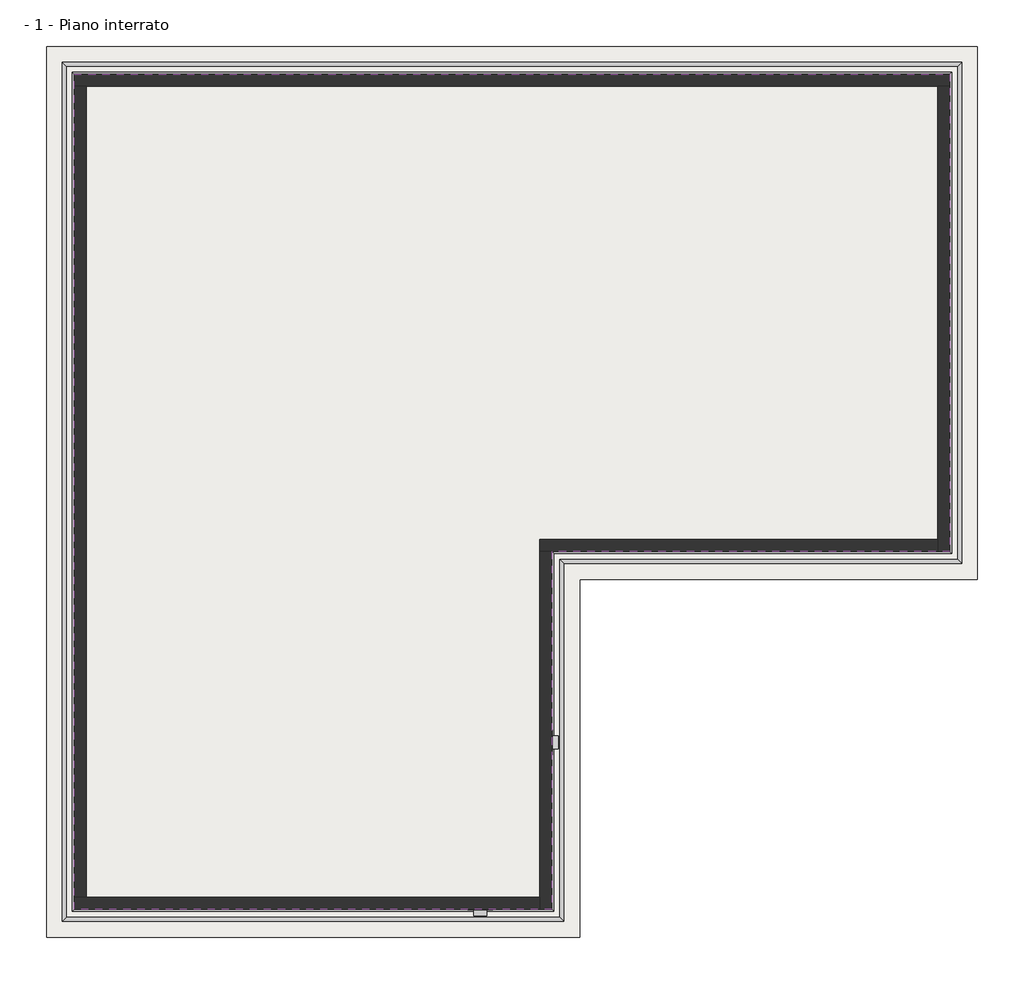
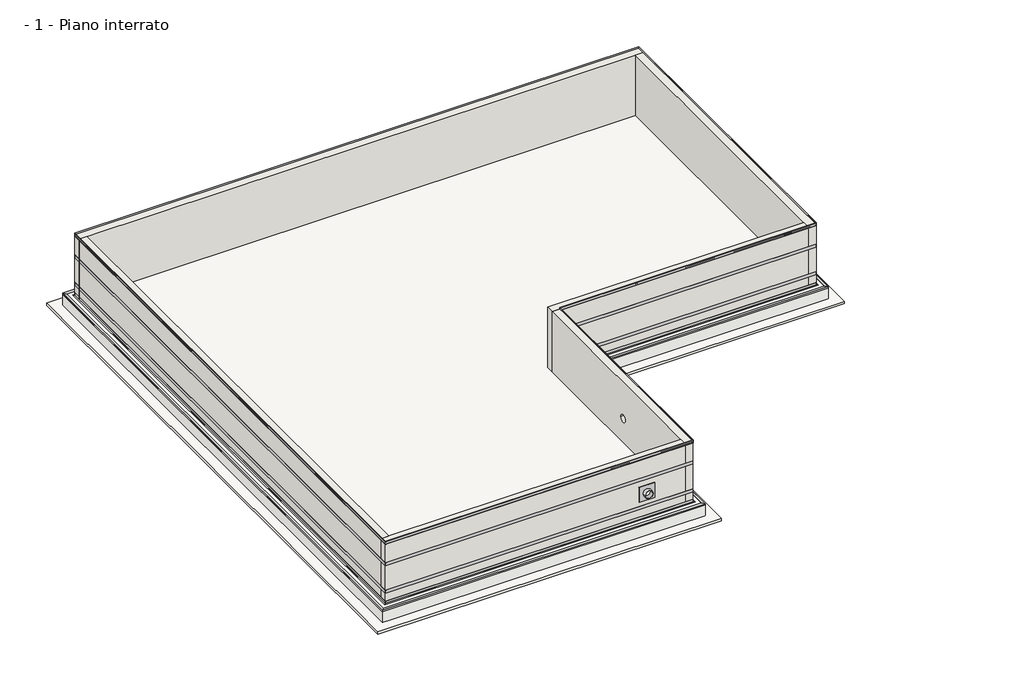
# One storey: 9 proxies, 6 walls, 2 slabs.
"""IFC4 building model written with IfcOpenShell, lengths in millimetres."""

from ifc_helpers import new_model, si_unit, frame, origin, place, context, project, spatial, polyline, circle_curve, outline, extrude, faceted_brep, transform, mapped, element, save
from ifc_brep_helpers import plane_surface, revolved_surface, advanced_brep
from components import generic_models_91e2fdae

model = new_model("IFC4")

# Units and contexts
model_context = context("Model", 3, world=origin())
ifc_project = project(units=[si_unit("LENGTHUNIT", "METRE", prefix="MILLI")], contexts=[model_context])

# Site, building, storey
site = spatial("IfcSite", under=ifc_project)
building = spatial("IfcBuilding", under=site)
storey = spatial("IfcBuildingStorey", under=building, Name="- 1 - Piano interrato", Elevation=-2500.0)

# Proxies
placement = place(None, origin())
element("IfcBuildingElementProxy", 1, Name="AMPHIBIA CORNER 90° VOLTECO", ObjectType="AMPHIBIA CORNER 90° VOLTECO", at=placement, inside=storey, context=model_context, shape_type="Brep", body=[
    faceted_brep([(14482.2184345, 11190.2450177, -2550.0), (14481.2184345, 11189.2450177, -2550.0), (-8118.7815655, 11189.2450177, -2550.0), (-8119.7815655, 11190.2450177, -2550.0), (14482.2184345, 11190.2450177, -2499.0), (-8119.7815655, 11190.2450177, -2499.0), (14381.2184345, 11089.2450177, -2499.0), (-8018.7815655, 11089.2450177, -2499.0), (14381.2184345, 11089.2450177, -2500.0), (-8018.7815655, 11089.2450177, -2500.0), (14481.2184345, 11189.2450177, -2500.0), (-8118.7815655, 11189.2450177, -2500.0), (-8118.7815655, -10410.7549823, -2550.0), (-8119.7815655, -10411.7549823, -2550.0), (-8119.7815655, -10411.7549823, -2499.0), (-8018.7815655, -10310.7549823, -2499.0), (-8018.7815655, -10310.7549823, -2500.0), (-8118.7815655, -10410.7549823, -2500.0), (4481.2184345, -10410.7549823, -2550.0), (4482.2184345, -10411.7549823, -2550.0), (4482.2184345, -10411.7549823, -2499.0), (4381.2184345, -10310.7549823, -2499.0), (4381.2184345, -10310.7549823, -2500.0), (4481.2184345, -10410.7549823, -2500.0), (4481.2184345, -1410.7549823, -2550.0), (4482.2184345, -1411.7549823, -2550.0), (4482.2184345, -1411.7549823, -2499.0), (4381.2184345, -1310.7549823, -2499.0), (4381.2184345, -1310.7549823, -2500.0), (4481.2184345, -1410.7549823, -2500.0), (14481.2184345, -1410.7549823, -2550.0), (14482.2184345, -1411.7549823, -2550.0), (14482.2184345, -1411.7549823, -2499.0), (14381.2184345, -1310.7549823, -2499.0), (14381.2184345, -1310.7549823, -2500.0), (14481.2184345, -1410.7549823, -2500.0)], [[[0, 1, 2, 3]], [[4, 0, 3, 5]], [[6, 4, 5, 7]], [[8, 6, 7, 9]], [[10, 8, 9, 11]], [[1, 10, 11, 2]], [[3, 2, 12, 13]], [[5, 3, 13, 14]], [[7, 5, 14, 15]], [[9, 7, 15, 16]], [[11, 9, 16, 17]], [[2, 11, 17, 12]], [[13, 12, 18, 19]], [[14, 13, 19, 20]], [[15, 14, 20, 21]], [[16, 15, 21, 22]], [[17, 16, 22, 23]], [[12, 17, 23, 18]], [[19, 18, 24, 25]], [[20, 19, 25, 26]], [[21, 20, 26, 27]], [[22, 21, 27, 28]], [[23, 22, 28, 29]], [[18, 23, 29, 24]], [[25, 24, 30, 31]], [[26, 25, 31, 32]], [[27, 26, 32, 33]], [[28, 27, 33, 34]], [[29, 28, 34, 35]], [[24, 29, 35, 30]], [[1, 0, 31, 30]], [[0, 4, 32, 31]], [[4, 6, 33, 32]], [[6, 8, 34, 33]], [[8, 10, 35, 34]], [[10, 1, 30, 35]]]),
])
element("IfcBuildingElementProxy", 2, Name="AKTI-VO 201 VOLTECO", ObjectType="AKTI-VO 201 VOLTECO", at=placement, inside=storey, context=model_context, shape_type="SweptSolid", body=[
    extrude(outline(polyline([(14205.1184345, 10913.1450177), (14206.1184345, 10914.1450177), (14206.1184345, -1135.6549823), (14205.1184345, -1134.6549823), (14205.1184345, 10913.1450177)])), frame((0.0, 0.0, -2500.0), z_axis=(0.0, 0.0, 1.0), x_axis=(1.0, 0.0, 0.0)), (0.0, 0.0, 1.0), 1.0),
    extrude(outline(polyline([(14205.1184345, -1134.6549823), (14206.1184345, -1135.6549823), (4206.1184345, -1135.6549823), (4205.1184345, -1134.6549823), (14205.1184345, -1134.6549823)])), frame((0.0, 0.0, -2500.0), z_axis=(0.0, 0.0, 1.0), x_axis=(1.0, 0.0, 0.0)), (0.0, 0.0, 1.0), 1.0),
    extrude(outline(polyline([(4205.1184345, -1134.6549823), (4206.1184345, -1135.6549823), (4206.1184345, -10135.6549823), (4205.1184345, -10134.6549823), (4205.1184345, -1134.6549823)])), frame((0.0, 0.0, -2500.0), z_axis=(0.0, 0.0, 1.0), x_axis=(1.0, 0.0, 0.0)), (0.0, 0.0, 1.0), 1.0),
    extrude(outline(polyline([(4205.1184345, -10134.6549823), (4206.1184345, -10135.6549823), (-7843.6815655, -10135.6549823), (-7842.6815655, -10134.6549823), (4205.1184345, -10134.6549823)])), frame((0.0, 0.0, -2500.0), z_axis=(0.0, 0.0, 1.0), x_axis=(1.0, 0.0, 0.0)), (0.0, 0.0, 1.0), 1.0),
    extrude(outline(polyline([(-7842.6815655, 10913.1450177), (-7843.6815655, 10914.1450177), (14206.1184345, 10914.1450177), (14205.1184345, 10913.1450177), (-7842.6815655, 10913.1450177)])), frame((0.0, 0.0, -2500.0), z_axis=(0.0, 0.0, 1.0), x_axis=(1.0, 0.0, 0.0)), (0.0, 0.0, 1.0), 1.0),
    extrude(outline(polyline([(-7842.6815655, -10134.6549823), (-7843.6815655, -10135.6549823), (-7843.6815655, 10914.1450177), (-7842.6815655, 10913.1450177), (-7842.6815655, -10134.6549823)])), frame((0.0, 0.0, -2500.0), z_axis=(0.0, 0.0, 1.0), x_axis=(1.0, 0.0, 0.0)), (0.0, 0.0, 1.0), 1.0),
])
element("IfcBuildingElementProxy", 3, Name="AMPHIBIA CORNER 270° VOLTECO", ObjectType="AMPHIBIA CORNER 270° VOLTECO", at=placement, inside=storey, context=model_context, shape_type="Brep", body=[
    faceted_brep([(14232.2184345, 10940.2450177, -2498.0), (14232.2184345, 10940.2450177, -2499.0), (14181.2184345, 10889.2450177, -2499.0), (14181.2184345, 10889.2450177, -2398.0), (14182.2184345, 10890.2450177, -2398.0), (14182.2184345, 10890.2450177, -2498.0), (14232.2184345, -1161.7549823, -2498.0), (14182.2184345, -1111.7549823, -2498.0), (14182.2184345, -1111.7549823, -2398.0), (14181.2184345, -1110.7549823, -2398.0), (14181.2184345, -1110.7549823, -2499.0), (14232.2184345, -1161.7549823, -2499.0)], [[[0, 1, 2, 3, 4, 5]], [[6, 7, 8, 9, 10, 11]], [[1, 0, 6, 11]], [[2, 1, 11, 10]], [[3, 2, 10, 9]], [[4, 3, 9, 8]], [[5, 4, 8, 7]], [[0, 5, 7, 6]]]),
    faceted_brep([(-7869.7815655, 10940.2450177, -2498.0), (-7869.7815655, 10940.2450177, -2499.0), (-7818.7815655, 10889.2450177, -2499.0), (-7818.7815655, 10889.2450177, -2398.0), (-7819.7815655, 10890.2450177, -2398.0), (-7819.7815655, 10890.2450177, -2498.0), (14232.2184345, 10940.2450177, -2498.0), (14182.2184345, 10890.2450177, -2498.0), (14182.2184345, 10890.2450177, -2398.0), (14181.2184345, 10889.2450177, -2398.0), (14181.2184345, 10889.2450177, -2499.0), (14232.2184345, 10940.2450177, -2499.0)], [[[0, 1, 2, 3, 4, 5]], [[6, 7, 8, 9, 10, 11]], [[1, 0, 6, 11]], [[2, 1, 11, 10]], [[3, 2, 10, 9]], [[4, 3, 9, 8]], [[5, 4, 8, 7]], [[0, 5, 7, 6]]]),
    faceted_brep([(-7869.7815655, -10161.7549823, -2498.0), (-7869.7815655, -10161.7549823, -2499.0), (-7818.7815655, -10110.7549823, -2499.0), (-7818.7815655, -10110.7549823, -2398.0), (-7819.7815655, -10111.7549823, -2398.0), (-7819.7815655, -10111.7549823, -2498.0), (-7869.7815655, 10940.2450177, -2498.0), (-7819.7815655, 10890.2450177, -2498.0), (-7819.7815655, 10890.2450177, -2398.0), (-7818.7815655, 10889.2450177, -2398.0), (-7818.7815655, 10889.2450177, -2499.0), (-7869.7815655, 10940.2450177, -2499.0)], [[[0, 1, 2, 3, 4, 5]], [[6, 7, 8, 9, 10, 11]], [[1, 0, 6, 11]], [[2, 1, 11, 10]], [[3, 2, 10, 9]], [[4, 3, 9, 8]], [[5, 4, 8, 7]], [[0, 5, 7, 6]]]),
    faceted_brep([(4232.2184345, -10161.7549823, -2498.0), (4232.2184345, -10161.7549823, -2499.0), (4181.2184345, -10110.7549823, -2499.0), (4181.2184345, -10110.7549823, -2398.0), (4182.2184345, -10111.7549823, -2398.0), (4182.2184345, -10111.7549823, -2498.0), (-7869.7815655, -10161.7549823, -2498.0), (-7819.7815655, -10111.7549823, -2498.0), (-7819.7815655, -10111.7549823, -2398.0), (-7818.7815655, -10110.7549823, -2398.0), (-7818.7815655, -10110.7549823, -2499.0), (-7869.7815655, -10161.7549823, -2499.0)], [[[0, 1, 2, 3, 4, 5]], [[6, 7, 8, 9, 10, 11]], [[1, 0, 6, 11]], [[2, 1, 11, 10]], [[3, 2, 10, 9]], [[4, 3, 9, 8]], [[5, 4, 8, 7]], [[0, 5, 7, 6]]]),
    faceted_brep([(4232.2184345, -1161.7549823, -2498.0), (4232.2184345, -1161.7549823, -2499.0), (4181.2184345, -1110.7549823, -2499.0), (4181.2184345, -1110.7549823, -2398.0), (4182.2184345, -1111.7549823, -2398.0), (4182.2184345, -1111.7549823, -2498.0), (4232.2184345, -10161.7549823, -2498.0), (4182.2184345, -10111.7549823, -2498.0), (4182.2184345, -10111.7549823, -2398.0), (4181.2184345, -10110.7549823, -2398.0), (4181.2184345, -10110.7549823, -2499.0), (4232.2184345, -10161.7549823, -2499.0)], [[[0, 1, 2, 3, 4, 5]], [[6, 7, 8, 9, 10, 11]], [[1, 0, 6, 11]], [[2, 1, 11, 10]], [[3, 2, 10, 9]], [[4, 3, 9, 8]], [[5, 4, 8, 7]], [[0, 5, 7, 6]]]),
    faceted_brep([(14232.2184345, -1161.7549823, -2498.0), (14232.2184345, -1161.7549823, -2499.0), (14181.2184345, -1110.7549823, -2499.0), (14181.2184345, -1110.7549823, -2398.0), (14182.2184345, -1111.7549823, -2398.0), (14182.2184345, -1111.7549823, -2498.0), (4232.2184345, -1161.7549823, -2498.0), (4182.2184345, -1111.7549823, -2498.0), (4182.2184345, -1111.7549823, -2398.0), (4181.2184345, -1110.7549823, -2398.0), (4181.2184345, -1110.7549823, -2499.0), (4232.2184345, -1161.7549823, -2499.0)], [[[0, 1, 2, 3, 4, 5]], [[6, 7, 8, 9, 10, 11]], [[1, 0, 6, 11]], [[2, 1, 11, 10]], [[3, 2, 10, 9]], [[4, 3, 9, 8]], [[5, 4, 8, 7]], [[0, 5, 7, 6]]]),
])
element("IfcBuildingElementProxy", 4, Name="Sistema Bi Flex H 10 lineare", ObjectType="Sistema Bi Flex H 10 lineare", at=placement, inside=storey, context=model_context, shape_type="Brep", body=[
    faceted_brep([(4181.2184345, -1110.7549823, 62.0), (4183.7184345, -1113.2549823, 59.5), (4183.7184345, -1113.2549823, 52.5), (4184.7184345, -1114.2549823, 51.0), (4184.7184345, -1114.2549823, -49.0), (4183.7184345, -1113.2549823, -50.5), (4183.7184345, -1113.2549823, -57.5), (4181.2184345, -1110.7549823, -60.0), (4182.2184345, -1111.7549823, 51.0), (4182.2184345, -1111.7549823, -49.0), (4183.2184345, -1112.7549823, -49.0), (4183.2184345, -1112.7549823, 51.0), (4181.2184345, -10110.7549823, 62.0), (4181.2184345, -10110.7549823, -60.0), (4183.7184345, -10113.2549823, -57.5), (4183.7184345, -10113.2549823, -50.5), (4184.7184345, -10114.2549823, -49.0), (4184.7184345, -10114.2549823, 51.0), (4183.7184345, -10113.2549823, 52.5), (4183.7184345, -10113.2549823, 59.5), (4182.2184345, -10111.7549823, 51.0), (4183.2184345, -10112.7549823, 51.0), (4183.2184345, -10112.7549823, -49.0), (4182.2184345, -10111.7549823, -49.0)], [[[0, 1, 2, 3, 4, 5, 6, 7], [8, 9, 10, 11]], [[12, 13, 14, 15, 16, 17, 18, 19], [20, 21, 22, 23]], [[1, 0, 12, 19]], [[2, 1, 19, 18]], [[3, 2, 18, 17]], [[4, 3, 17, 16]], [[5, 4, 16, 15]], [[6, 5, 15, 14]], [[7, 6, 14, 13]], [[0, 7, 13, 12]], [[9, 8, 20, 23]], [[10, 9, 23, 22]], [[11, 10, 22, 21]], [[8, 11, 21, 20]]]),
    faceted_brep([(14181.2184345, -1110.7549823, 62.0), (14183.7184345, -1113.2549823, 59.5), (14183.7184345, -1113.2549823, 52.5), (14184.7184345, -1114.2549823, 51.0), (14184.7184345, -1114.2549823, -49.0), (14183.7184345, -1113.2549823, -50.5), (14183.7184345, -1113.2549823, -57.5), (14181.2184345, -1110.7549823, -60.0), (14182.2184345, -1111.7549823, 51.0), (14182.2184345, -1111.7549823, -49.0), (14183.2184345, -1112.7549823, -49.0), (14183.2184345, -1112.7549823, 51.0), (4181.2184345, -1110.7549823, 62.0), (4181.2184345, -1110.7549823, -60.0), (4183.7184345, -1113.2549823, -57.5), (4183.7184345, -1113.2549823, -50.5), (4184.7184345, -1114.2549823, -49.0), (4184.7184345, -1114.2549823, 51.0), (4183.7184345, -1113.2549823, 52.5), (4183.7184345, -1113.2549823, 59.5), (4182.2184345, -1111.7549823, 51.0), (4183.2184345, -1112.7549823, 51.0), (4183.2184345, -1112.7549823, -49.0), (4182.2184345, -1111.7549823, -49.0)], [[[0, 1, 2, 3, 4, 5, 6, 7], [8, 9, 10, 11]], [[12, 13, 14, 15, 16, 17, 18, 19], [20, 21, 22, 23]], [[1, 0, 12, 19]], [[2, 1, 19, 18]], [[3, 2, 18, 17]], [[4, 3, 17, 16]], [[5, 4, 16, 15]], [[6, 5, 15, 14]], [[7, 6, 14, 13]], [[0, 7, 13, 12]], [[9, 8, 20, 23]], [[10, 9, 23, 22]], [[11, 10, 22, 21]], [[8, 11, 21, 20]]]),
    faceted_brep([(14181.2184345, 10889.2450177, 62.0), (14183.7184345, 10891.7450177, 59.5), (14183.7184345, 10891.7450177, 52.5), (14184.7184345, 10892.7450177, 51.0), (14184.7184345, 10892.7450177, -49.0), (14183.7184345, 10891.7450177, -50.5), (14183.7184345, 10891.7450177, -57.5), (14181.2184345, 10889.2450177, -60.0), (14182.2184345, 10890.2450177, 51.0), (14182.2184345, 10890.2450177, -49.0), (14183.2184345, 10891.2450177, -49.0), (14183.2184345, 10891.2450177, 51.0), (14181.2184345, -1110.7549823, 62.0), (14181.2184345, -1110.7549823, -60.0), (14183.7184345, -1113.2549823, -57.5), (14183.7184345, -1113.2549823, -50.5), (14184.7184345, -1114.2549823, -49.0), (14184.7184345, -1114.2549823, 51.0), (14183.7184345, -1113.2549823, 52.5), (14183.7184345, -1113.2549823, 59.5), (14182.2184345, -1111.7549823, 51.0), (14183.2184345, -1112.7549823, 51.0), (14183.2184345, -1112.7549823, -49.0), (14182.2184345, -1111.7549823, -49.0)], [[[0, 1, 2, 3, 4, 5, 6, 7], [8, 9, 10, 11]], [[12, 13, 14, 15, 16, 17, 18, 19], [20, 21, 22, 23]], [[1, 0, 12, 19]], [[2, 1, 19, 18]], [[3, 2, 18, 17]], [[4, 3, 17, 16]], [[5, 4, 16, 15]], [[6, 5, 15, 14]], [[7, 6, 14, 13]], [[0, 7, 13, 12]], [[9, 8, 20, 23]], [[10, 9, 23, 22]], [[11, 10, 22, 21]], [[8, 11, 21, 20]]]),
    faceted_brep([(-7818.7815655, 10889.2450177, 62.0), (-7821.2815655, 10891.7450177, 59.5), (-7821.2815655, 10891.7450177, 52.5), (-7822.2815655, 10892.7450177, 51.0), (-7822.2815655, 10892.7450177, -49.0), (-7821.2815655, 10891.7450177, -50.5), (-7821.2815655, 10891.7450177, -57.5), (-7818.7815655, 10889.2450177, -60.0), (-7819.7815655, 10890.2450177, 51.0), (-7819.7815655, 10890.2450177, -49.0), (-7820.7815655, 10891.2450177, -49.0), (-7820.7815655, 10891.2450177, 51.0), (14181.2184345, 10889.2450177, 62.0), (14181.2184345, 10889.2450177, -60.0), (14183.7184345, 10891.7450177, -57.5), (14183.7184345, 10891.7450177, -50.5), (14184.7184345, 10892.7450177, -49.0), (14184.7184345, 10892.7450177, 51.0), (14183.7184345, 10891.7450177, 52.5), (14183.7184345, 10891.7450177, 59.5), (14182.2184345, 10890.2450177, 51.0), (14183.2184345, 10891.2450177, 51.0), (14183.2184345, 10891.2450177, -49.0), (14182.2184345, 10890.2450177, -49.0)], [[[0, 1, 2, 3, 4, 5, 6, 7], [8, 9, 10, 11]], [[12, 13, 14, 15, 16, 17, 18, 19], [20, 21, 22, 23]], [[1, 0, 12, 19]], [[2, 1, 19, 18]], [[3, 2, 18, 17]], [[4, 3, 17, 16]], [[5, 4, 16, 15]], [[6, 5, 15, 14]], [[7, 6, 14, 13]], [[0, 7, 13, 12]], [[9, 8, 20, 23]], [[10, 9, 23, 22]], [[11, 10, 22, 21]], [[8, 11, 21, 20]]]),
    faceted_brep([(-7818.7815655, -10110.7549823, 62.0), (-7821.2815655, -10113.2549823, 59.5), (-7821.2815655, -10113.2549823, 52.5), (-7822.2815655, -10114.2549823, 51.0), (-7822.2815655, -10114.2549823, -49.0), (-7821.2815655, -10113.2549823, -50.5), (-7821.2815655, -10113.2549823, -57.5), (-7818.7815655, -10110.7549823, -60.0), (-7819.7815655, -10111.7549823, 51.0), (-7819.7815655, -10111.7549823, -49.0), (-7820.7815655, -10112.7549823, -49.0), (-7820.7815655, -10112.7549823, 51.0), (-7818.7815655, 10889.2450177, 62.0), (-7818.7815655, 10889.2450177, -60.0), (-7821.2815655, 10891.7450177, -57.5), (-7821.2815655, 10891.7450177, -50.5), (-7822.2815655, 10892.7450177, -49.0), (-7822.2815655, 10892.7450177, 51.0), (-7821.2815655, 10891.7450177, 52.5), (-7821.2815655, 10891.7450177, 59.5), (-7819.7815655, 10890.2450177, 51.0), (-7820.7815655, 10891.2450177, 51.0), (-7820.7815655, 10891.2450177, -49.0), (-7819.7815655, 10890.2450177, -49.0)], [[[0, 1, 2, 3, 4, 5, 6, 7], [8, 9, 10, 11]], [[12, 13, 14, 15, 16, 17, 18, 19], [20, 21, 22, 23]], [[1, 0, 12, 19]], [[2, 1, 19, 18]], [[3, 2, 18, 17]], [[4, 3, 17, 16]], [[5, 4, 16, 15]], [[6, 5, 15, 14]], [[7, 6, 14, 13]], [[0, 7, 13, 12]], [[9, 8, 20, 23]], [[10, 9, 23, 22]], [[11, 10, 22, 21]], [[8, 11, 21, 20]]]),
    faceted_brep([(4181.2184345, -10110.7549823, 62.0), (4183.7184345, -10113.2549823, 59.5), (4183.7184345, -10113.2549823, 52.5), (4184.7184345, -10114.2549823, 51.0), (4184.7184345, -10114.2549823, -49.0), (4183.7184345, -10113.2549823, -50.5), (4183.7184345, -10113.2549823, -57.5), (4181.2184345, -10110.7549823, -60.0), (4182.2184345, -10111.7549823, 51.0), (4182.2184345, -10111.7549823, -49.0), (4183.2184345, -10112.7549823, -49.0), (4183.2184345, -10112.7549823, 51.0), (-7818.7815655, -10110.7549823, 62.0), (-7818.7815655, -10110.7549823, -60.0), (-7821.2815655, -10113.2549823, -57.5), (-7821.2815655, -10113.2549823, -50.5), (-7822.2815655, -10114.2549823, -49.0), (-7822.2815655, -10114.2549823, 51.0), (-7821.2815655, -10113.2549823, 52.5), (-7821.2815655, -10113.2549823, 59.5), (-7819.7815655, -10111.7549823, 51.0), (-7820.7815655, -10112.7549823, 51.0), (-7820.7815655, -10112.7549823, -49.0), (-7819.7815655, -10111.7549823, -49.0)], [[[0, 1, 2, 3, 4, 5, 6, 7], [8, 9, 10, 11]], [[12, 13, 14, 15, 16, 17, 18, 19], [20, 21, 22, 23]], [[1, 0, 12, 19]], [[2, 1, 19, 18]], [[3, 2, 18, 17]], [[4, 3, 17, 16]], [[5, 4, 16, 15]], [[6, 5, 15, 14]], [[7, 6, 14, 13]], [[0, 7, 13, 12]], [[9, 8, 20, 23]], [[10, 9, 23, 22]], [[11, 10, 22, 21]], [[8, 11, 21, 20]]]),
])
element("IfcBuildingElementProxy", 5, Name="WT CONSTRUCTION Volteco", ObjectType="WT CONSTRUCTION Volteco", at=placement, inside=storey, context=model_context, shape_type="SweptSolid", body=[
    extrude(outline(polyline([(4018.7184345, -948.2549823), (4043.7184345, -973.2549823), (4043.7184345, -9973.2549823), (4018.7184345, -9948.2549823), (4018.7184345, -948.2549823)])), frame((0.0, 0.0, -2500.0), z_axis=(0.0, 0.0, 1.0), x_axis=(1.0, 0.0, 0.0)), (0.0, 0.0, 1.0), 15.0),
    extrude(outline(polyline([(4018.7184345, -9948.2549823), (4043.7184345, -9973.2549823), (-7681.2815655, -9973.2549823), (-7656.2815655, -9948.2549823), (4018.7184345, -9948.2549823)])), frame((0.0, 0.0, -2500.0), z_axis=(0.0, 0.0, 1.0), x_axis=(1.0, 0.0, 0.0)), (0.0, 0.0, 1.0), 15.0),
    extrude(outline(polyline([(-7656.2815655, -9948.2549823), (-7681.2815655, -9973.2549823), (-7681.2815655, 10751.7450177), (-7656.2815655, 10726.7450177), (-7656.2815655, -9948.2549823)])), frame((0.0, 0.0, -2500.0), z_axis=(0.0, 0.0, 1.0), x_axis=(1.0, 0.0, 0.0)), (0.0, 0.0, 1.0), 15.0),
    extrude(outline(polyline([(-7656.2815655, 10726.7450177), (-7681.2815655, 10751.7450177), (14043.7184345, 10751.7450177), (14018.7184345, 10726.7450177), (-7656.2815655, 10726.7450177)])), frame((0.0, 0.0, -2500.0), z_axis=(0.0, 0.0, 1.0), x_axis=(1.0, 0.0, 0.0)), (0.0, 0.0, 1.0), 15.0),
    extrude(outline(polyline([(14018.7184345, 10726.7450177), (14043.7184345, 10751.7450177), (14043.7184345, -973.2549823), (14018.7184345, -948.2549823), (14018.7184345, 10726.7450177)])), frame((0.0, 0.0, -2500.0), z_axis=(0.0, 0.0, 1.0), x_axis=(1.0, 0.0, 0.0)), (0.0, 0.0, 1.0), 15.0),
    extrude(outline(polyline([(14018.7184345, -948.2549823), (14043.7184345, -973.2549823), (4043.7184345, -973.2549823), (4018.7184345, -948.2549823), (14018.7184345, -948.2549823)])), frame((0.0, 0.0, -2500.0), z_axis=(0.0, 0.0, 1.0), x_axis=(1.0, 0.0, 0.0)), (0.0, 0.0, 1.0), 15.0),
])
element("IfcBuildingElementProxy", 6, Name="AMPHIBIA 3000 STRIP Volteco", ObjectType="AMPHIBIA 3000 STRIP Volteco", at=placement, inside=storey, context=model_context, shape_type="SweptSolid", body=[
    extrude(outline(polyline([(4181.2184345, -10110.7549823), (4182.2184345, -10111.7549823), (-7819.7815655, -10111.7549823), (-7818.7815655, -10110.7549823), (4181.2184345, -10110.7549823)])), frame((0.0, 0.0, -940.0), z_axis=(0.0, 0.0, 1.0), x_axis=(1.0, 0.0, 0.0)), (0.0, 0.0, 1.0), 120.0),
    extrude(outline(polyline([(4181.2184345, -1110.7549823), (4182.2184345, -1111.7549823), (4182.2184345, -10111.7549823), (4181.2184345, -10110.7549823), (4181.2184345, -1110.7549823)])), frame((0.0, 0.0, -940.0), z_axis=(0.0, 0.0, 1.0), x_axis=(1.0, 0.0, 0.0)), (0.0, 0.0, 1.0), 120.0),
    extrude(outline(polyline([(14181.2184345, -1110.7549823), (14182.2184345, -1111.7549823), (4182.2184345, -1111.7549823), (4181.2184345, -1110.7549823), (14181.2184345, -1110.7549823)])), frame((0.0, 0.0, -940.0), z_axis=(0.0, 0.0, 1.0), x_axis=(1.0, 0.0, 0.0)), (0.0, 0.0, 1.0), 120.0),
    extrude(outline(polyline([(14181.2184345, 10889.2450177), (14182.2184345, 10890.2450177), (14182.2184345, -1111.7549823), (14181.2184345, -1110.7549823), (14181.2184345, 10889.2450177)])), frame((0.0, 0.0, -940.0), z_axis=(0.0, 0.0, 1.0), x_axis=(1.0, 0.0, 0.0)), (0.0, 0.0, 1.0), 120.0),
    extrude(outline(polyline([(-7818.7815655, 10889.2450177), (-7819.7815655, 10890.2450177), (14182.2184345, 10890.2450177), (14181.2184345, 10889.2450177), (-7818.7815655, 10889.2450177)])), frame((0.0, 0.0, -940.0), z_axis=(0.0, 0.0, 1.0), x_axis=(1.0, 0.0, 0.0)), (0.0, 0.0, 1.0), 120.0),
    extrude(outline(polyline([(-7818.7815655, -10110.7549823), (-7819.7815655, -10111.7549823), (-7819.7815655, 10890.2450177), (-7818.7815655, 10889.2450177), (-7818.7815655, -10110.7549823)])), frame((0.0, 0.0, -940.0), z_axis=(0.0, 0.0, 1.0), x_axis=(1.0, 0.0, 0.0)), (0.0, 0.0, 1.0), 120.0),
])
element("IfcBuildingElementProxy", 7, Name="AMPHIBIA 3000 STRIP Volteco", ObjectType="AMPHIBIA 3000 STRIP Volteco", at=placement, inside=storey, context=model_context, shape_type="SweptSolid", body=[
    extrude(outline(polyline([(4181.2184345, -10110.7549823), (4182.2184345, -10111.7549823), (-7819.7815655, -10111.7549823), (-7818.7815655, -10110.7549823), (4181.2184345, -10110.7549823)])), frame((0.0, 0.0, -2080.0), z_axis=(0.0, 0.0, 1.0), x_axis=(1.0, 0.0, 0.0)), (0.0, 0.0, 1.0), 120.0),
    extrude(outline(polyline([(4181.2184345, -1110.7549823), (4182.2184345, -1111.7549823), (4182.2184345, -10111.7549823), (4181.2184345, -10110.7549823), (4181.2184345, -1110.7549823)])), frame((0.0, 0.0, -2080.0), z_axis=(0.0, 0.0, 1.0), x_axis=(1.0, 0.0, 0.0)), (0.0, 0.0, 1.0), 120.0),
    extrude(outline(polyline([(14181.2184345, -1110.7549823), (14182.2184345, -1111.7549823), (4182.2184345, -1111.7549823), (4181.2184345, -1110.7549823), (14181.2184345, -1110.7549823)])), frame((0.0, 0.0, -2080.0), z_axis=(0.0, 0.0, 1.0), x_axis=(1.0, 0.0, 0.0)), (0.0, 0.0, 1.0), 120.0),
    extrude(outline(polyline([(14181.2184345, 10889.2450177), (14182.2184345, 10890.2450177), (14182.2184345, -1111.7549823), (14181.2184345, -1110.7549823), (14181.2184345, 10889.2450177)])), frame((0.0, 0.0, -2080.0), z_axis=(0.0, 0.0, 1.0), x_axis=(1.0, 0.0, 0.0)), (0.0, 0.0, 1.0), 120.0),
    extrude(outline(polyline([(-7818.7815655, 10889.2450177), (-7819.7815655, 10890.2450177), (14182.2184345, 10890.2450177), (14181.2184345, 10889.2450177), (-7818.7815655, 10889.2450177)])), frame((0.0, 0.0, -2080.0), z_axis=(0.0, 0.0, 1.0), x_axis=(1.0, 0.0, 0.0)), (0.0, 0.0, 1.0), 120.0),
    extrude(outline(polyline([(-7818.7815655, -10110.7549823), (-7819.7815655, -10111.7549823), (-7819.7815655, 10890.2450177), (-7818.7815655, 10889.2450177), (-7818.7815655, -10110.7549823)])), frame((0.0, 0.0, -2080.0), z_axis=(0.0, 0.0, 1.0), x_axis=(1.0, 0.0, 0.0)), (0.0, 0.0, 1.0), 120.0),
])
generic_models_shape = generic_models_91e2fdae(model_context)
element("IfcBuildingElementProxy", 8, Name="ITA-VOLTECO Amphibia Tubo : ITA-VOLTECO Amphibia Tubo", ObjectType="ITA-VOLTECO Amphibia Tubo : ITA-VOLTECO Amphibia Tubo", at=placement, inside=storey, context=model_context, shape_type="MappedRepresentation", body=[
    mapped(generic_models_shape, transform((4181.2184345, -5910.7549823, -1500.3520841), x_axis=(0.0, 1.0, 0.0), y_axis=(0.0, 0.0, 1.0), z_axis=(1.0, 0.0, 0.0))),
])
element("IfcBuildingElementProxy", 9, Name="ITA-VOLTECO Amphibia Tubo : ITA-VOLTECO Amphibia Tubo", ObjectType="ITA-VOLTECO Amphibia Tubo : ITA-VOLTECO Amphibia Tubo", at=placement, inside=storey, context=model_context, shape_type="MappedRepresentation", body=[
    mapped(generic_models_shape, transform((2381.2184345, -10110.7549823, -1471.2981482), x_axis=(1.0, 0.0, 0.0), y_axis=(0.0, 0.0, 1.0), z_axis=(0.0, -1.0, 0.0))),
])

# Slabs
element("IfcSlab", 10, ObjectType="Magrone - 10 cm", at=placement, inside=storey, context=model_context, shape_type="SweptSolid", body=[
    extrude(outline(polyline([(14881.2184345, 11589.2450177), (14881.2184345, -1810.7549823), (4881.2184345, -1810.7549823), (4881.2184345, -10810.7549823), (-8518.7815655, -10810.7549823), (-8518.7815655, 11589.2450177), (14881.2184345, 11589.2450177)])), frame((0.0, 0.0, -3100.0), z_axis=(0.0, 0.0, 1.0), x_axis=(1.0, 0.0, 0.0)), (0.0, 0.0, 1.0), 100.0),
])
element("IfcSlab", 11, ObjectType="Platea - 50 cm", at=placement, inside=storey, context=model_context, shape_type="Brep", body=[
    faceted_brep([(14481.2184345, 11189.2450177, -3000.0), (14481.2184345, -1410.7549823, -3000.0), (4481.2184345, -1410.7549823, -3000.0), (4481.2184345, -10410.7549823, -3000.0), (-8118.7815655, -10410.7549823, -3000.0), (-8118.7815655, 11189.2450177, -3000.0), (14481.2184345, 11189.2450177, -2500.0), (-8118.7815655, 11189.2450177, -2500.0), (-8118.7815655, -10410.7549823, -2500.0), (4481.2184345, -10410.7549823, -2500.0), (4481.2184345, -1410.7549823, -2500.0), (14481.2184345, -1410.7549823, -2500.0), (14481.2184345, 11189.2450177, -2550.0), (14481.2184345, -1410.7549823, -2550.0), (4481.2184345, -1410.7549823, -2550.0), (4481.2184345, -10410.7549823, -2550.0), (-8118.7815655, -10410.7549823, -2550.0), (-8118.7815655, 11189.2450177, -2550.0)], [[[0, 1, 2, 3, 4, 5]], [[6, 7, 8, 9, 10, 11]], [[1, 0, 12, 6, 11, 13]], [[2, 1, 13, 11, 10, 14]], [[3, 2, 14, 10, 9, 15]], [[4, 3, 15, 9, 8, 16]], [[5, 4, 16, 8, 7, 17]], [[0, 5, 17, 7, 6, 12]]]),
])

# Walls
element("IfcWall", 12, ObjectType="Fondazione - 30 cm", at=placement, inside=storey, context=model_context, shape_type="Brep", body=[
    faceted_brep([(14181.2184345, 10589.2450177, 0.0), (13881.2184345, 10589.2450177, 0.0), (-7518.7815655, 10589.2450177, 0.0), (-7818.7815655, 10589.2450177, 0.0), (-7818.7815655, 10589.2450177, -60.0), (-7818.7815655, 10589.2450177, -820.0), (-7818.7815655, 10589.2450177, -940.0), (-7818.7815655, 10589.2450177, -1960.0), (-7818.7815655, 10589.2450177, -2080.0), (-7818.7815655, 10589.2450177, -2398.0), (-7818.7815655, 10589.2450177, -2499.0), (-7818.7815655, 10589.2450177, -2500.0), (-7681.2815655, 10589.2450177, -2500.0), (-7681.2815655, 10589.2450177, -2485.0), (-7656.2815655, 10589.2450177, -2485.0), (-7656.2815655, 10589.2450177, -2500.0), (-7518.7815655, 10589.2450177, -2500.0), (13881.2184345, 10589.2450177, -2500.0), (14018.7184345, 10589.2450177, -2500.0), (14018.7184345, 10589.2450177, -2485.0), (14043.7184345, 10589.2450177, -2485.0), (14043.7184345, 10589.2450177, -2500.0), (14181.2184345, 10589.2450177, -2500.0), (14181.2184345, 10589.2450177, -2499.0), (14181.2184345, 10589.2450177, -2398.0), (14181.2184345, 10589.2450177, -2080.0), (14181.2184345, 10589.2450177, -1960.0), (14181.2184345, 10589.2450177, -940.0), (14181.2184345, 10589.2450177, -820.0), (14181.2184345, 10589.2450177, -60.0), (-7818.7815655, 10889.2450177, 0.0), (14181.2184345, 10889.2450177, 0.0), (14181.2184345, 10889.2450177, -60.0), (14181.2184345, 10889.2450177, -820.0), (14181.2184345, 10889.2450177, -940.0), (14181.2184345, 10889.2450177, -1960.0), (14181.2184345, 10889.2450177, -2080.0), (14181.2184345, 10889.2450177, -2398.0), (14181.2184345, 10889.2450177, -2499.0), (14181.2184345, 10889.2450177, -2500.0), (-7818.7815655, 10889.2450177, -2500.0), (-7818.7815655, 10889.2450177, -2499.0), (-7818.7815655, 10889.2450177, -2398.0), (-7818.7815655, 10889.2450177, -2080.0), (-7818.7815655, 10889.2450177, -1960.0), (-7818.7815655, 10889.2450177, -940.0), (-7818.7815655, 10889.2450177, -820.0), (-7818.7815655, 10889.2450177, -60.0), (14043.7184345, 10751.7450177, -2500.0), (-7681.2815655, 10751.7450177, -2500.0), (-7656.2815655, 10726.7450177, -2500.0), (14018.7184345, 10726.7450177, -2500.0), (-7656.2815655, 10726.7450177, -2485.0), (14018.7184345, 10726.7450177, -2485.0), (-7681.2815655, 10751.7450177, -2485.0), (14043.7184345, 10751.7450177, -2485.0)], [[[0, 1, 2, 3, 4, 5, 6, 7, 8, 9, 10, 11, 12, 13, 14, 15, 16, 17, 18, 19, 20, 21, 22, 23, 24, 25, 26, 27, 28, 29]], [[30, 31, 32, 33, 34, 35, 36, 37, 38, 39, 40, 41, 42, 43, 44, 45, 46, 47]], [[3, 2, 1, 0, 31, 30]], [[31, 0, 29, 28, 27, 26, 25, 24, 23, 22, 39, 38, 37, 36, 35, 34, 33, 32]], [[3, 30, 47, 46, 45, 44, 43, 42, 41, 40, 11, 10, 9, 8, 7, 6, 5, 4]], [[11, 40, 39, 22, 21, 48, 49, 12]], [[18, 17, 16, 15, 50, 51]], [[52, 50, 15, 14]], [[53, 52, 14, 13, 54, 55, 20, 19]], [[50, 52, 53, 51]], [[51, 53, 19, 18]], [[49, 54, 13, 12]], [[55, 54, 49, 48]], [[55, 48, 21, 20]]]),
])
element("IfcWall", 13, ObjectType="Fondazione - 30 cm", at=placement, inside=storey, context=model_context, shape_type="Brep", body=[
    faceted_brep([(13881.2184345, -1110.7549823, 0.0), (13881.2184345, -810.7549823, 0.0), (13881.2184345, 10589.2450177, 0.0), (13881.2184345, 10589.2450177, -2500.0), (13881.2184345, -810.7549823, -2500.0), (13881.2184345, -948.2549823, -2500.0), (13881.2184345, -948.2549823, -2485.0), (13881.2184345, -973.2549823, -2485.0), (13881.2184345, -973.2549823, -2500.0), (13881.2184345, -1110.7549823, -2500.0), (13881.2184345, -1110.7549823, -2499.0), (13881.2184345, -1110.7549823, -2398.0), (13881.2184345, -1110.7549823, -2080.0), (13881.2184345, -1110.7549823, -1960.0), (13881.2184345, -1110.7549823, -940.0), (13881.2184345, -1110.7549823, -820.0), (13881.2184345, -1110.7549823, -60.0), (14181.2184345, 10589.2450177, 0.0), (14181.2184345, -1110.7549823, 0.0), (14181.2184345, -1110.7549823, -60.0), (14181.2184345, -1110.7549823, -820.0), (14181.2184345, -1110.7549823, -940.0), (14181.2184345, -1110.7549823, -1960.0), (14181.2184345, -1110.7549823, -2080.0), (14181.2184345, -1110.7549823, -2398.0), (14181.2184345, -1110.7549823, -2499.0), (14181.2184345, -1110.7549823, -2500.0), (14181.2184345, 10589.2450177, -2500.0), (14181.2184345, 10589.2450177, -2499.0), (14181.2184345, 10589.2450177, -2398.0), (14181.2184345, 10589.2450177, -2080.0), (14181.2184345, 10589.2450177, -1960.0), (14181.2184345, 10589.2450177, -940.0), (14181.2184345, 10589.2450177, -820.0), (14181.2184345, 10589.2450177, -60.0), (14043.7184345, 10589.2450177, -2500.0), (14043.7184345, 10589.2450177, -2485.0), (14018.7184345, 10589.2450177, -2485.0), (14018.7184345, 10589.2450177, -2500.0), (14043.7184345, -973.2549823, -2500.0), (14018.7184345, -948.2549823, -2500.0), (14018.7184345, -948.2549823, -2485.0), (14043.7184345, -973.2549823, -2485.0)], [[[0, 1, 2, 3, 4, 5, 6, 7, 8, 9, 10, 11, 12, 13, 14, 15, 16]], [[17, 18, 19, 20, 21, 22, 23, 24, 25, 26, 27, 28, 29, 30, 31, 32, 33, 34]], [[2, 1, 0, 18, 17]], [[3, 2, 17, 34, 33, 32, 31, 30, 29, 28, 27, 35, 36, 37, 38]], [[18, 0, 16, 15, 14, 13, 12, 11, 10, 9, 26, 25, 24, 23, 22, 21, 20, 19]], [[27, 26, 9, 8, 39, 35]], [[5, 4, 3, 38, 40]], [[6, 41, 37, 36, 42, 7]], [[41, 40, 38, 37]], [[40, 41, 6, 5]], [[39, 42, 36, 35]], [[42, 39, 8, 7]]]),
])
element("IfcWall", 14, ObjectType="Fondazione - 30 cm", at=placement, inside=storey, context=model_context, shape_type="Brep", body=[
    faceted_brep([(3881.2184345, -810.7549823, 0.0), (13881.2184345, -810.7549823, 0.0), (13881.2184345, -810.7549823, -2500.0), (3881.2184345, -810.7549823, -2500.0), (3881.2184345, -1110.7549823, 0.0), (3881.2184345, -1110.7549823, -2500.0), (4018.7184345, -1110.7549823, -2500.0), (4018.7184345, -1110.7549823, -2485.0), (4043.7184345, -1110.7549823, -2485.0), (4043.7184345, -1110.7549823, -2500.0), (4181.2184345, -1110.7549823, -2500.0), (13881.2184345, -1110.7549823, -2500.0), (13881.2184345, -1110.7549823, -2499.0), (13881.2184345, -1110.7549823, -2398.0), (13881.2184345, -1110.7549823, -2080.0), (13881.2184345, -1110.7549823, -1960.0), (13881.2184345, -1110.7549823, -940.0), (13881.2184345, -1110.7549823, -820.0), (13881.2184345, -1110.7549823, -60.0), (13881.2184345, -1110.7549823, 0.0), (4181.2184345, -1110.7549823, 0.0), (13881.2184345, -973.2549823, -2500.0), (13881.2184345, -973.2549823, -2485.0), (13881.2184345, -948.2549823, -2485.0), (13881.2184345, -948.2549823, -2500.0), (4018.7184345, -948.2549823, -2500.0), (4043.7184345, -973.2549823, -2500.0), (4018.7184345, -948.2549823, -2485.0), (4043.7184345, -973.2549823, -2485.0)], [[[0, 1, 2, 3]], [[4, 5, 6, 7, 8, 9, 10, 11, 12, 13, 14, 15, 16, 17, 18, 19, 20]], [[1, 0, 4, 20, 19]], [[2, 1, 19, 18, 17, 16, 15, 14, 13, 12, 11, 21, 22, 23, 24]], [[0, 3, 5, 4]], [[3, 2, 24, 25, 6, 5]], [[11, 10, 9, 26, 21]], [[7, 27, 23, 22, 28, 8]], [[27, 25, 24, 23]], [[25, 27, 7, 6]], [[26, 28, 22, 21]], [[28, 26, 9, 8]]]),
])
element("IfcWall", 15, ObjectType="Fondazione - 30 cm", at=placement, inside=storey, context=model_context, shape_type="AdvancedBrep", body=[
    advanced_brep(
    [(3881.2184345, -10110.7549823, 0.0), (3881.2184345, -9810.7549823, 0.0), (3881.2184345, -1110.7549823, 0.0), (3881.2184345, -1110.7549823, -2500.0), (3881.2184345, -9810.7549823, -2500.0), (3881.2184345, -9948.2549823, -2500.0), (3881.2184345, -9948.2549823, -2485.0), (3881.2184345, -9973.2549823, -2485.0), (3881.2184345, -9973.2549823, -2500.0), (3881.2184345, -10110.7549823, -2500.0), (3881.2184345, -10110.7549823, -2499.0), (3881.2184345, -10110.7549823, -2398.0), (3881.2184345, -10110.7549823, -2080.0), (3881.2184345, -10110.7549823, -1960.0), (3881.2184345, -10110.7549823, -940.0), (3881.2184345, -10110.7549823, -820.0), (3881.2184345, -10110.7549823, -60.0), (3881.2184345, -6060.7549823, -1500.3520841), (3881.2184345, -5760.7549823, -1500.3520841), (4181.2184345, -1110.7549823, 0.0), (4181.2184345, -10110.7549823, 0.0), (4181.2184345, -10110.7549823, -60.0), (4181.2184345, -10110.7549823, -820.0), (4181.2184345, -10110.7549823, -940.0), (4181.2184345, -10110.7549823, -1960.0), (4181.2184345, -10110.7549823, -2080.0), (4181.2184345, -10110.7549823, -2398.0), (4181.2184345, -10110.7549823, -2499.0), (4181.2184345, -10110.7549823, -2500.0), (4181.2184345, -1110.7549823, -2500.0), (4181.2184345, -1110.7549823, -2499.0), (4181.2184345, -1110.7549823, -2398.0), (4181.2184345, -1110.7549823, -2080.0), (4181.2184345, -1110.7549823, -1960.0), (4181.2184345, -1110.7549823, -940.0), (4181.2184345, -1110.7549823, -820.0), (4181.2184345, -1110.7549823, -60.0), (4181.2184345, -5760.7549823, -1500.3520841), (4181.2184345, -6060.7549823, -1500.3520841), (4043.7184345, -1110.7549823, -2500.0), (4043.7184345, -1110.7549823, -2485.0), (4018.7184345, -1110.7549823, -2485.0), (4018.7184345, -1110.7549823, -2500.0), (4043.7184345, -9973.2549823, -2500.0), (4018.7184345, -9948.2549823, -2500.0), (4018.7184345, -9948.2549823, -2485.0), (4043.7184345, -9973.2549823, -2485.0)],
    [
        (0, 1),
        (1, 2),
        (2, 3),
        (3, 4),
        (4, 5),
        (5, 6),
        (6, 7),
        (7, 8),
        (8, 9),
        (9, 10),
        (10, 11),
        (11, 12),
        (12, 13),
        (13, 14),
        (14, 15),
        (15, 16),
        (16, 0),
        (17, 18, circle_curve(frame((3881.2184345, -5910.7549823, -1500.3520841), z_axis=(1.0, 0.0, 0.0), x_axis=(0.0, 1.0, 0.0)), 150.0)),
        (18, 17, circle_curve(frame((3881.2184345, -5910.7549823, -1500.3520841), z_axis=(1.0, 0.0, 0.0), x_axis=(0.0, 1.0, 0.0)), 150.0)),
        (19, 20),
        (20, 21),
        (21, 22),
        (22, 23),
        (23, 24),
        (24, 25),
        (25, 26),
        (26, 27),
        (27, 28),
        (28, 29),
        (29, 30),
        (30, 31),
        (31, 32),
        (32, 33),
        (33, 34),
        (34, 35),
        (35, 36),
        (36, 19),
        (37, 38, circle_curve(frame((4181.2184345, -5910.7549823, -1500.3520841), z_axis=(-1.0, 0.0, 0.0), x_axis=(0.0, 1.0, 0.0)), 150.0)),
        (38, 37, circle_curve(frame((4181.2184345, -5910.7549823, -1500.3520841), z_axis=(-1.0, 0.0, 0.0), x_axis=(0.0, 1.0, 0.0)), 150.0)),
        (0, 20),
        (19, 2),
        (29, 39),
        (39, 40),
        (40, 41),
        (41, 42),
        (42, 3),
        (9, 28),
        (8, 43),
        (43, 39),
        (42, 44),
        (44, 5),
        (17, 38),
        (37, 18),
        (6, 45),
        (45, 41),
        (40, 46),
        (46, 7),
        (45, 44),
        (43, 46),
    ],
    [
        plane_surface(frame((3881.2184345, -1110.7549823, -2500.0), z_axis=(-1.0, 0.0, 0.0), x_axis=(0.0, -1.0, 0.0))),
        plane_surface(frame((4181.2184345, -1110.7549823, -2500.0), z_axis=(1.0, 0.0, 0.0), x_axis=(0.0, 1.0, 0.0))),
        plane_surface(frame((3881.2184345, -9960.7549823, 0.0), z_axis=(0.0, 0.0, 1.0), x_axis=(1.0, 0.0, 0.0))),
        plane_surface(frame((14181.2184345, -1110.7549823, -2500.0), z_axis=(0.0, 1.0, 0.0), x_axis=(1.0, 0.0, 0.0))),
        plane_surface(frame((4181.2184345, -10110.7549823, -2500.0), z_axis=(0.0, -1.0, 0.0), x_axis=(1.0, 0.0, 0.0))),
        plane_surface(frame((14481.2184345, 10889.2450177, -2500.0), z_axis=(0.0, 0.0, -1.0), x_axis=(0.0, 1.0, 0.0))),
        revolved_surface(polyline([(4181.2184345, -5760.7549823, -1500.3520841), (3881.2184345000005, -5760.7549823, -1500.3520841)]), (1588.8547464, -5910.7549823, -1500.3520841), (1.0, 0.0, 0.0)),
        plane_surface(frame((14181.2184345, -948.2549823, -2485.0), z_axis=(0.0, 0.0, -1.0), x_axis=(-1.0, 0.0, 0.0))),
        plane_surface(frame((4018.7184345, -948.2549823, -2500.0), z_axis=(1.0, 0.0, 0.0), x_axis=(0.0, -1.0, 0.0))),
        plane_surface(frame((4018.7184345, -9948.2549823, -2500.0), z_axis=(0.0, -1.0, 0.0), x_axis=(-1.0, 0.0, 0.0))),
        plane_surface(frame((4043.7184345, -973.2549823, -2485.0), z_axis=(-1.0, 0.0, 0.0), x_axis=(0.0, -1.0, 0.0))),
        plane_surface(frame((4043.7184345, -9973.2549823, -2485.0), z_axis=(0.0, 1.0, 0.0), x_axis=(-1.0, 0.0, 0.0))),
    ],
    [
        (0, [[1, 2, 3, 4, 5, 6, 7, 8, 9, 10, 11, 12, 13, 14, 15, 16, 17], [18, 19]]),
        (1, [[20, 21, 22, 23, 24, 25, 26, 27, 28, 29, 30, 31, 32, 33, 34, 35, 36, 37], [38, 39]]),
        (2, [[-2, -1, 40, -20, 41]]),
        (3, [[-3, -41, -37, -36, -35, -34, -33, -32, -31, -30, 42, 43, 44, 45, 46]]),
        (4, [[-40, -17, -16, -15, -14, -13, -12, -11, -10, 47, -28, -27, -26, -25, -24, -23, -22, -21]]),
        (5, [[-29, -47, -9, 48, 49, -42]]),
        (5, [[-5, -4, -46, 50, 51]]),
        (6, [[52, -38, 53, -18]]),
        (6, [[-52, -19, -53, -39]]),
        (7, [[54, 55, -44, 56, 57, -7]]),
        (8, [[58, -50, -45, -55]]),
        (9, [[-58, -54, -6, -51]]),
        (10, [[59, -56, -43, -49]]),
        (11, [[-59, -48, -8, -57]]),
    ],
),
])
element("IfcWall", 16, ObjectType="Fondazione - 30 cm", at=placement, inside=storey, context=model_context, shape_type="AdvancedBrep", body=[
    advanced_brep(
    [(-7818.7815655, -9810.7549823, 0.0), (-7518.7815655, -9810.7549823, 0.0), (3881.2184345, -9810.7549823, 0.0), (3881.2184345, -9810.7549823, -2500.0), (-7518.7815655, -9810.7549823, -2500.0), (-7656.2815655, -9810.7549823, -2500.0), (-7656.2815655, -9810.7549823, -2485.0), (-7681.2815655, -9810.7549823, -2485.0), (-7681.2815655, -9810.7549823, -2500.0), (-7818.7815655, -9810.7549823, -2500.0), (-7818.7815655, -9810.7549823, -2499.0), (-7818.7815655, -9810.7549823, -2398.0), (-7818.7815655, -9810.7549823, -2080.0), (-7818.7815655, -9810.7549823, -1960.0), (-7818.7815655, -9810.7549823, -940.0), (-7818.7815655, -9810.7549823, -820.0), (-7818.7815655, -9810.7549823, -60.0), (2231.2184345, -9810.7549823, -1471.2981482), (2531.2184345, -9810.7549823, -1471.2981482), (3881.2184345, -10110.7549823, 0.0), (-7818.7815655, -10110.7549823, 0.0), (-7818.7815655, -10110.7549823, -60.0), (-7818.7815655, -10110.7549823, -820.0), (-7818.7815655, -10110.7549823, -940.0), (-7818.7815655, -10110.7549823, -1960.0), (-7818.7815655, -10110.7549823, -2080.0), (-7818.7815655, -10110.7549823, -2398.0), (-7818.7815655, -10110.7549823, -2499.0), (-7818.7815655, -10110.7549823, -2500.0), (3881.2184345, -10110.7549823, -2500.0), (3881.2184345, -10110.7549823, -2499.0), (3881.2184345, -10110.7549823, -2398.0), (3881.2184345, -10110.7549823, -2080.0), (3881.2184345, -10110.7549823, -1960.0), (3881.2184345, -10110.7549823, -940.0), (3881.2184345, -10110.7549823, -820.0), (3881.2184345, -10110.7549823, -60.0), (2531.2184345, -10110.7549823, -1471.2981482), (2231.2184345, -10110.7549823, -1471.2981482), (3881.2184345, -9973.2549823, -2500.0), (3881.2184345, -9973.2549823, -2485.0), (3881.2184345, -9948.2549823, -2485.0), (3881.2184345, -9948.2549823, -2500.0), (-7681.2815655, -9973.2549823, -2500.0), (-7656.2815655, -9948.2549823, -2500.0), (-7656.2815655, -9948.2549823, -2485.0), (-7681.2815655, -9973.2549823, -2485.0)],
    [
        (0, 1),
        (1, 2),
        (2, 3),
        (3, 4),
        (4, 5),
        (5, 6),
        (6, 7),
        (7, 8),
        (8, 9),
        (9, 10),
        (10, 11),
        (11, 12),
        (12, 13),
        (13, 14),
        (14, 15),
        (15, 16),
        (16, 0),
        (17, 18, circle_curve(frame((2381.2184345, -9810.7549823, -1471.2981482), z_axis=(0.0, -1.0, 0.0), x_axis=(1.0, 0.0, 0.0)), 150.0)),
        (18, 17, circle_curve(frame((2381.2184345, -9810.7549823, -1471.2981482), z_axis=(0.0, -1.0, 0.0), x_axis=(1.0, 0.0, 0.0)), 150.0)),
        (19, 20),
        (20, 21),
        (21, 22),
        (22, 23),
        (23, 24),
        (24, 25),
        (25, 26),
        (26, 27),
        (27, 28),
        (28, 29),
        (29, 30),
        (30, 31),
        (31, 32),
        (32, 33),
        (33, 34),
        (34, 35),
        (35, 36),
        (36, 19),
        (37, 38, circle_curve(frame((2381.2184345, -10110.7549823, -1471.2981482), z_axis=(0.0, 1.0, 0.0), x_axis=(1.0, 0.0, 0.0)), 150.0)),
        (38, 37, circle_curve(frame((2381.2184345, -10110.7549823, -1471.2981482), z_axis=(0.0, 1.0, 0.0), x_axis=(1.0, 0.0, 0.0)), 150.0)),
        (0, 20),
        (19, 2),
        (29, 39),
        (39, 40),
        (40, 41),
        (41, 42),
        (42, 3),
        (9, 28),
        (8, 43),
        (43, 39),
        (42, 44),
        (44, 5),
        (17, 38),
        (37, 18),
        (6, 45),
        (45, 41),
        (40, 46),
        (46, 7),
        (45, 44),
        (43, 46),
    ],
    [
        plane_surface(frame((4181.2184345, -9810.7549823, -2500.0), z_axis=(0.0, 1.0, 0.0), x_axis=(-1.0, 0.0, 0.0))),
        plane_surface(frame((4181.2184345, -10110.7549823, -2500.0), z_axis=(0.0, -1.0, 0.0), x_axis=(1.0, 0.0, 0.0))),
        plane_surface(frame((-7668.7815655, -9810.7549823, 0.0), z_axis=(0.0, 0.0, 1.0), x_axis=(0.0, -1.0, 0.0))),
        plane_surface(frame((3881.2184345, -1110.7549823, -2500.0), z_axis=(1.0, 0.0, 0.0), x_axis=(0.0, -1.0, 0.0))),
        plane_surface(frame((-7818.7815655, -10110.7549823, -2500.0), z_axis=(-1.0, 0.0, 0.0), x_axis=(0.0, -1.0, 0.0))),
        plane_surface(frame((14481.2184345, 10889.2450177, -2500.0), z_axis=(0.0, 0.0, -1.0), x_axis=(0.0, 1.0, 0.0))),
        revolved_surface(polyline([(2531.2184345, -10110.7549823, -1471.2981482), (2531.2184345, -9810.7549823, -1471.2981482)]), (2381.2184345, -7518.3912941, -1471.2981482), (0.0, -1.0, 0.0)),
        plane_surface(frame((4018.7184345, -1110.7549823, -2485.0), z_axis=(0.0, 0.0, -1.0), x_axis=(0.0, -1.0, 0.0))),
        plane_surface(frame((4018.7184345, -9948.2549823, -2500.0), z_axis=(0.0, -1.0, 0.0), x_axis=(-1.0, 0.0, 0.0))),
        plane_surface(frame((-7656.2815655, -9948.2549823, -2500.0), z_axis=(-1.0, 0.0, 0.0), x_axis=(0.0, 1.0, 0.0))),
        plane_surface(frame((4043.7184345, -9973.2549823, -2485.0), z_axis=(0.0, 1.0, 0.0), x_axis=(-1.0, 0.0, 0.0))),
        plane_surface(frame((-7681.2815655, -9973.2549823, -2485.0), z_axis=(1.0, 0.0, 0.0), x_axis=(0.0, 1.0, 0.0))),
    ],
    [
        (0, [[1, 2, 3, 4, 5, 6, 7, 8, 9, 10, 11, 12, 13, 14, 15, 16, 17], [18, 19]]),
        (1, [[20, 21, 22, 23, 24, 25, 26, 27, 28, 29, 30, 31, 32, 33, 34, 35, 36, 37], [38, 39]]),
        (2, [[-2, -1, 40, -20, 41]]),
        (3, [[-3, -41, -37, -36, -35, -34, -33, -32, -31, -30, 42, 43, 44, 45, 46]]),
        (4, [[-40, -17, -16, -15, -14, -13, -12, -11, -10, 47, -28, -27, -26, -25, -24, -23, -22, -21]]),
        (5, [[-29, -47, -9, 48, 49, -42]]),
        (5, [[-5, -4, -46, 50, 51]]),
        (6, [[52, -38, 53, -18]]),
        (6, [[-52, -19, -53, -39]]),
        (7, [[54, 55, -44, 56, 57, -7]]),
        (8, [[58, -50, -45, -55]]),
        (9, [[-58, -54, -6, -51]]),
        (10, [[59, -56, -43, -49]]),
        (11, [[-59, -48, -8, -57]]),
    ],
),
])
element("IfcWall", 17, ObjectType="Fondazione - 30 cm", at=placement, inside=storey, context=model_context, shape_type="Brep", body=[
    faceted_brep([(-7518.7815655, 10589.2450177, 0.0), (-7518.7815655, -9810.7549823, 0.0), (-7518.7815655, -9810.7549823, -2500.0), (-7518.7815655, 10589.2450177, -2500.0), (-7818.7815655, -9810.7549823, 0.0), (-7818.7815655, 10589.2450177, 0.0), (-7818.7815655, 10589.2450177, -60.0), (-7818.7815655, 10589.2450177, -820.0), (-7818.7815655, 10589.2450177, -940.0), (-7818.7815655, 10589.2450177, -1960.0), (-7818.7815655, 10589.2450177, -2080.0), (-7818.7815655, 10589.2450177, -2398.0), (-7818.7815655, 10589.2450177, -2499.0), (-7818.7815655, 10589.2450177, -2500.0), (-7818.7815655, -9810.7549823, -2500.0), (-7818.7815655, -9810.7549823, -2499.0), (-7818.7815655, -9810.7549823, -2398.0), (-7818.7815655, -9810.7549823, -2080.0), (-7818.7815655, -9810.7549823, -1960.0), (-7818.7815655, -9810.7549823, -940.0), (-7818.7815655, -9810.7549823, -820.0), (-7818.7815655, -9810.7549823, -60.0), (-7656.2815655, 10589.2450177, -2500.0), (-7656.2815655, 10589.2450177, -2485.0), (-7681.2815655, 10589.2450177, -2485.0), (-7681.2815655, 10589.2450177, -2500.0), (-7681.2815655, -9810.7549823, -2500.0), (-7681.2815655, -9810.7549823, -2485.0), (-7656.2815655, -9810.7549823, -2485.0), (-7656.2815655, -9810.7549823, -2500.0)], [[[0, 1, 2, 3]], [[4, 5, 6, 7, 8, 9, 10, 11, 12, 13, 14, 15, 16, 17, 18, 19, 20, 21]], [[1, 0, 5, 4]], [[0, 3, 22, 23, 24, 25, 13, 12, 11, 10, 9, 8, 7, 6, 5]], [[2, 1, 4, 21, 20, 19, 18, 17, 16, 15, 14, 26, 27, 28, 29]], [[3, 2, 29, 22]], [[14, 13, 25, 26]], [[23, 28, 27, 24]], [[28, 23, 22, 29]], [[24, 27, 26, 25]]]),
])

save(model, "model.ifc")
